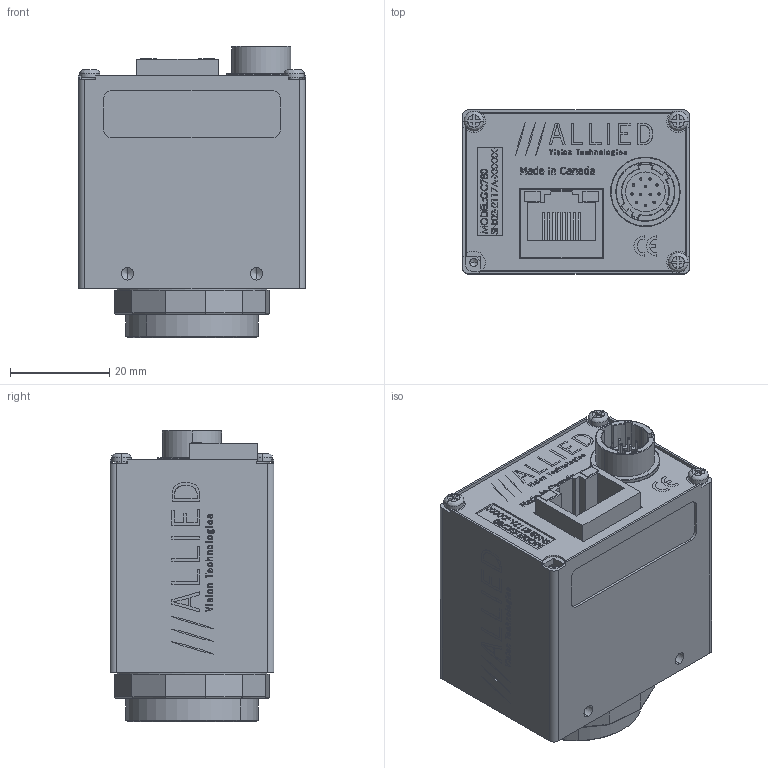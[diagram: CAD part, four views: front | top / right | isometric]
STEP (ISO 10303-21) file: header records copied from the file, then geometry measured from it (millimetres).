
FILE_DESCRIPTION (( 'STEP AP214' ), '1' );
FILE_NAME ('GC780.STEP', '2013-07-31T16:40:22', ( '' ), ( '' ), 'SwSTEP 2.0', 'SolidWorks 2013', '' );
FILE_SCHEMA (( 'AUTOMOTIVE_DESIGN' ));
Length unit declared in the file: millimetre
Products named in the file (19): 260033-AMPHENOL RJHS-3381; 140017-SCREW PAN M2x4 SS; 740103A-A GC780 LABEL PRINT; 110042C GC-CCD FRONT_Finished with logo; 110031A-B EC-CCD LOCKING RING; 200117A-GC780 MONO PCB ASSY; 220154-SONY ICX415AL; Sony ICX415 WINDOW; Sony ICX415 BODY; 140023-SCREW SKT CAP M2x10 SS; 110043A GC BACK PLATE; 110043A GC BACK PLATE - WO HW; 140013-washer spring lock M2; 110045B-EC-CCD DUST SHIELD GASKET; 740032B-GC MAIN LABEL; GC780; 260034-HIROSE HR10A-10R-12PB; 200047A-A GC INTERFACE PCB ASSY; 110003AC-CV CMOUNT RING
Assembly tree (22 placements, depth 4):
  GC780
    740032B-GC MAIN LABEL
    110045B-EC-CCD DUST SHIELD GASKET
    140013-washer spring lock M2  x2
    110043A GC BACK PLATE
      110043A GC BACK PLATE - WO HW
    140023-SCREW SKT CAP M2x10 SS  x2
    200117A-GC780 MONO PCB ASSY
      220154-SONY ICX415AL
        Sony ICX415 BODY
        Sony ICX415 WINDOW
    110031A-B EC-CCD LOCKING RING
    110042C GC-CCD FRONT_Finished with logo
    740103A-A GC780 LABEL PRINT
    140017-SCREW PAN M2x4 SS  x3
    200047A-A GC INTERFACE PCB ASSY
      260033-AMPHENOL RJHS-3381
    260034-HIROSE HR10A-10R-12PB
    110003AC-CV CMOUNT RING
Bounding box: 45.72 x 33.02 x 58.62 mm (x, y, z)
Volume: 22272.5 mm3; surface area: 31288.3 mm2
Topology: 18 solids, 18 shells, 2861 faces, 7534 edges, 4882 vertices
Faces by surface type: plane 1591, bspline 833, cylinder 259, cone 178
Entity records: 145517 total; most frequent: CARTESIAN_POINT 50890, ORIENTED_EDGE 14524, DIRECTION 10278, EDGE_CURVE 7262, LINE 4952, VECTOR 4952, VERTEX_POINT 4756, EDGE_LOOP 3074
